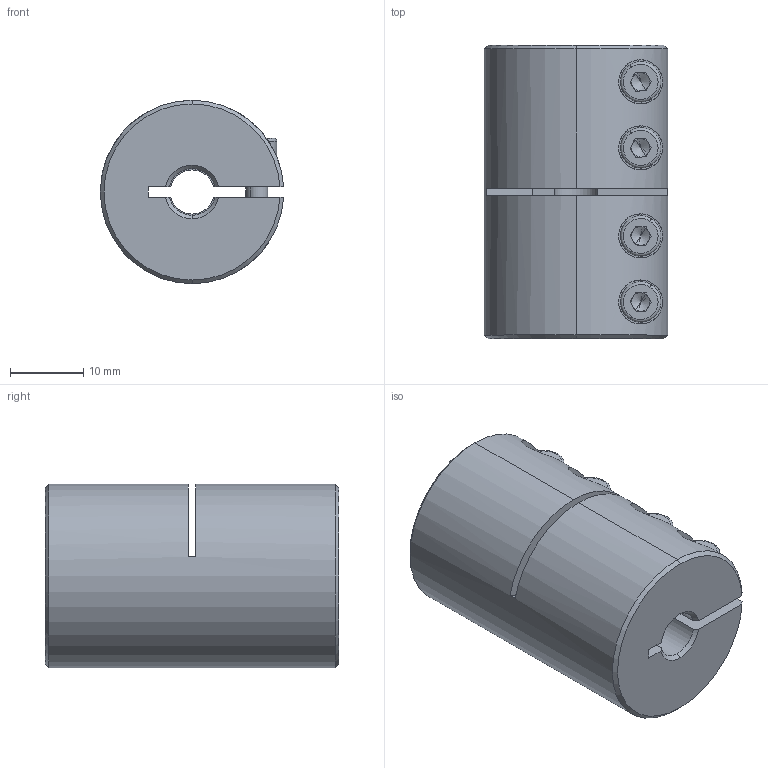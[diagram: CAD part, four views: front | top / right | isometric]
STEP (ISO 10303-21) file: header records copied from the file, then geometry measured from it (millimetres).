
FILE_DESCRIPTION (( 'STEP AP214' ), '1' );
FILE_NAME ('LL-B-D25L40-6-6.35½¨Ä£.STEP', '2022-07-21T05:07:15', ( '' ), ( '' ), 'SwSTEP 2.0', 'SolidWorks 2022', '' );
FILE_SCHEMA (( 'AUTOMOTIVE_DESIGN' ));
Length unit declared in the file: millimetre
Products named in the file (1): LL-B-D25L40-6-6.35膘耀
Bounding box: 24.98 x 40 x 25 mm (x, y, z)
Volume: 17157.9 mm3; surface area: 7082.8 mm2
Topology: 1 solids, 1 shells, 178 faces, 455 edges, 287 vertices
Faces by surface type: plane 85, cylinder 65, cone 20, torus 8
Entity records: 5838 total; most frequent: CARTESIAN_POINT 1437, DIRECTION 946, ORIENTED_EDGE 894, EDGE_CURVE 447, AXIS2_PLACEMENT_3D 364, VERTEX_POINT 287, LINE 218, VECTOR 218
